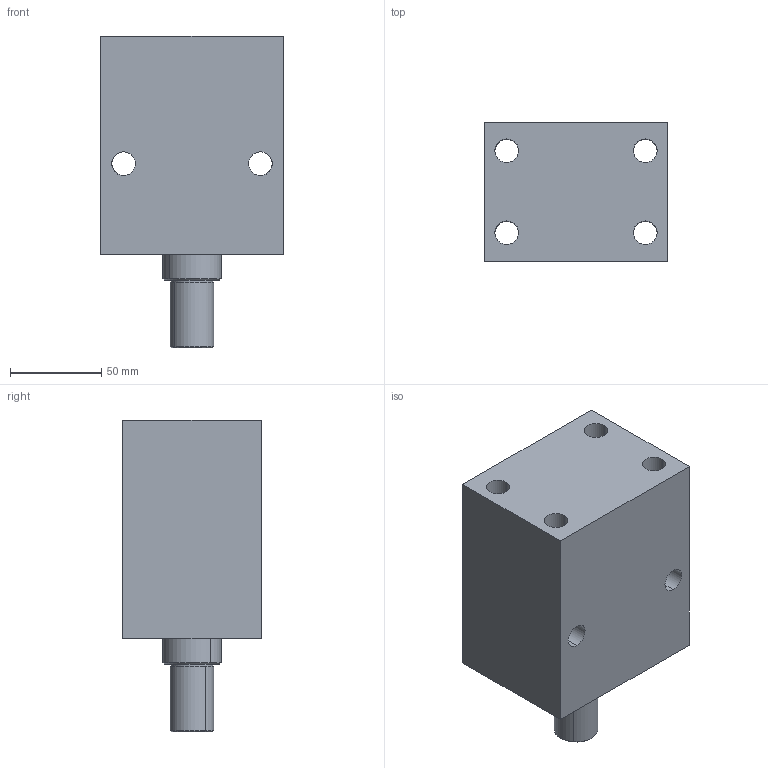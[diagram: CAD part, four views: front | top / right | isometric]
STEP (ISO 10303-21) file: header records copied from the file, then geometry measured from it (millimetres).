
FILE_DESCRIPTION (( 'STEP AP203' ), '1' );
FILE_NAME ('Block cylinder B01C-450M.STEP', '2022-07-09T18:12:47', ( '' ), ( '' ), 'SwSTEP 2.0', 'SolidWorks 2017', '' );
FILE_SCHEMA (( 'CONFIG_CONTROL_DESIGN' ));
Length unit declared in the file: millimetre
Products named in the file (3): Body_450M_50ST; Piston_450M_50sT; Block cylinder B01C-450M
Assembly tree (2 placements, depth 2):
  Block cylinder B01C-450M
    Body_450M_50ST
    Piston_450M_50sT
Bounding box: 100 x 76 x 171 mm (x, y, z)
Volume: 873782.8 mm3; surface area: 95779.4 mm2
Topology: 2 solids, 2 shells, 340 faces, 943 edges, 624 vertices
Faces by surface type: plane 151, bspline 147, cylinder 34, cone 8
Entity records: 17770 total; most frequent: CARTESIAN_POINT 9751, ORIENTED_EDGE 1878, DIRECTION 1081, EDGE_CURVE 939, VERTEX_POINT 624, VECTOR 557, LINE 557, EDGE_LOOP 381
